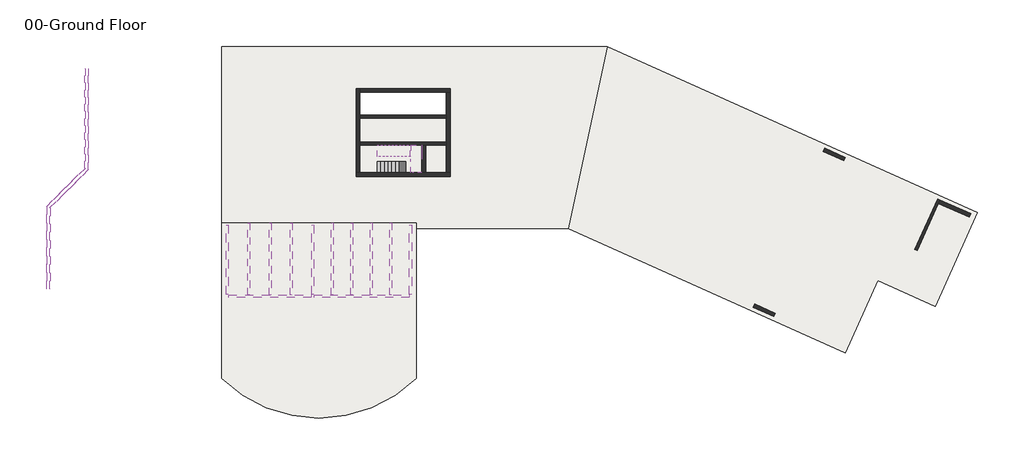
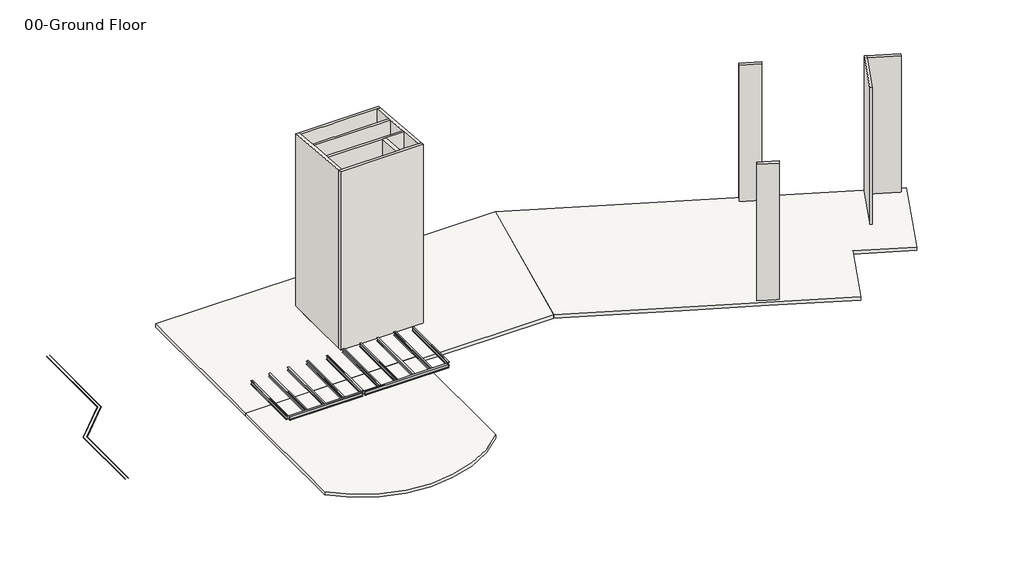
# One storey: 12 beams, 11 walls, 6 proxies, 4 slabs, 2 stair flights.
"""IFC4 building model written with IfcOpenShell, lengths in millimetres."""

from ifc_helpers import new_model, si_unit, frame, origin, origin_with_axes, place, context, project, spatial, polyline, circle_curve, outline, extrude, faceted_brep, transform, mapped, element, save
from ifc_brep_helpers import plane_surface, cylinder_surface, advanced_brep
from components import w_shapes_w12x26_2928aa94, w_shapes_w14x30_ae17c4a2, w_shapes_w14x30_3d09f0be, w_shapes_w14x30_640f1b9c, w_shapes_w14x30_d98494cf

model = new_model("IFC4")

# Units and contexts
model_context = context("Model", 3, world=origin())
ifc_project = project(units=[si_unit("LENGTHUNIT", "METRE", prefix="MILLI")], contexts=[model_context])

# Site, building, storey
site = spatial("IfcSite", under=ifc_project)
building = spatial("IfcBuilding", under=site)
storey = spatial("IfcBuildingStorey", under=building, Name="00-Ground Floor", Elevation=0.0)

# Beams
placement = place(None, origin())
w_shapes_w12x26_shape = w_shapes_w12x26_2928aa94(model_context)
element("IfcBeam", 1, ObjectType="W Shapes : W12X26", at=placement, inside=storey, context=model_context, shape_type="MappedRepresentation", body=[
    mapped(w_shapes_w12x26_shape, transform((1752.6, -16998.95, 2994.66), x_axis=(0.0, 1.0, 0.0), y_axis=(-1.0, 0.0, 0.0), z_axis=(0.0, 0.0, 1.0))),
])
element("IfcBeam", 2, ObjectType="W Shapes : W12X26", at=placement, inside=storey, context=model_context, shape_type="MappedRepresentation", body=[
    mapped(w_shapes_w12x26_shape, transform((3505.2, -16998.95, 2994.66), x_axis=(0.0, 1.0, 0.0), y_axis=(-1.0, 0.0, 0.0), z_axis=(0.0, 0.0, 1.0))),
])
element("IfcBeam", 3, ObjectType="W Shapes : W12X26", at=placement, inside=storey, context=model_context, shape_type="MappedRepresentation", body=[
    mapped(w_shapes_w12x26_shape, transform((5257.8, -16998.95, 2994.66), x_axis=(0.0, 1.0, 0.0), y_axis=(-1.0, 0.0, 0.0), z_axis=(0.0, 0.0, 1.0))),
])
element("IfcBeam", 4, ObjectType="W Shapes : W12X26", at=placement, inside=storey, context=model_context, shape_type="MappedRepresentation", body=[
    mapped(w_shapes_w12x26_shape, transform((8608.06, -16998.95, 2994.66), x_axis=(0.0, 1.0, 0.0), y_axis=(-1.0, 0.0, 0.0), z_axis=(0.0, 0.0, 1.0))),
])
element("IfcBeam", 5, ObjectType="W Shapes : W12X26", at=placement, inside=storey, context=model_context, shape_type="MappedRepresentation", body=[
    mapped(w_shapes_w12x26_shape, transform((10205.72, -16998.95, 2994.66), x_axis=(0.0, 1.0, 0.0), y_axis=(-1.0, 0.0, 0.0), z_axis=(0.0, 0.0, 1.0))),
])
element("IfcBeam", 6, ObjectType="W Shapes : W12X26", at=placement, inside=storey, context=model_context, shape_type="MappedRepresentation", body=[
    mapped(w_shapes_w12x26_shape, transform((11803.38, -16998.95, 2994.66), x_axis=(0.0, 1.0, 0.0), y_axis=(-1.0, 0.0, 0.0), z_axis=(0.0, 0.0, 1.0))),
])
element("IfcBeam", 7, ObjectType="W Shapes : W12X26", at=placement, inside=storey, context=model_context, shape_type="MappedRepresentation", body=[
    mapped(w_shapes_w12x26_shape, transform((13401.04, -16998.95, 2994.66), x_axis=(0.0, 1.0, 0.0), y_axis=(-1.0, 0.0, 0.0), z_axis=(0.0, 0.0, 1.0))),
])
w_shapes_w14x30_shape = w_shapes_w14x30_ae17c4a2(model_context)
element("IfcBeam", 8, ObjectType="W Shapes : W14X30", at=placement, inside=storey, context=model_context, shape_type="MappedRepresentation", body=[
    mapped(w_shapes_w14x30_shape, transform((3505.2, -20002.5, 2974.34), x_axis=(1.0, 0.0, 0.0), y_axis=(0.0, 1.0, 0.0), z_axis=(0.0, 0.0, 1.0))),
])
w_shapes_w14x30_2_shape = w_shapes_w14x30_3d09f0be(model_context)
element("IfcBeam", 9, ObjectType="W Shapes : W14X30", at=placement, inside=storey, context=model_context, shape_type="MappedRepresentation", body=[
    mapped(w_shapes_w14x30_2_shape, transform((11004.55, -20002.5, 2974.34), x_axis=(1.0, 0.0, 0.0), y_axis=(0.0, 1.0, 0.0), z_axis=(0.0, 0.0, 1.0))),
])
w_shapes_w14x30_3_shape = w_shapes_w14x30_640f1b9c(model_context)
element("IfcBeam", 10, ObjectType="W Shapes : W14X30", at=placement, inside=storey, context=model_context, shape_type="MappedRepresentation", body=[
    mapped(w_shapes_w14x30_3_shape, transform((0.0, -16998.95, 2974.34), x_axis=(0.0, 1.0, 0.0), y_axis=(-1.0, 0.0, 0.0), z_axis=(0.0, 0.0, 1.0))),
])
element("IfcBeam", 11, ObjectType="W Shapes : W14X30", at=placement, inside=storey, context=model_context, shape_type="MappedRepresentation", body=[
    mapped(w_shapes_w14x30_3_shape, transform((7010.4, -16998.95, 2974.34), x_axis=(0.0, 1.0, 0.0), y_axis=(-1.0, 0.0, 0.0), z_axis=(0.0, 0.0, 1.0))),
])
w_shapes_w14x30_4_shape = w_shapes_w14x30_d98494cf(model_context)
element("IfcBeam", 12, ObjectType="W Shapes : W14X30", at=placement, inside=storey, context=model_context, shape_type="MappedRepresentation", body=[
    mapped(w_shapes_w14x30_4_shape, transform((14998.7, -16998.95, 2974.34), x_axis=(0.0, -1.0, 0.0), y_axis=(1.0, 0.0, 0.0), z_axis=(0.0, 0.0, 1.0))),
])

# Proxies
element("IfcBuildingElementProxy", 13, Name="Reveals", at=placement, inside=storey, context=model_context, shape_type="Brep", body=[
    faceted_brep([(-14486.2784596, -12770.2555384, 1803.4), (-14511.6784596, -12759.734514, 1828.8), (-14486.2784596, -12770.2555384, 1828.8), (-14486.2784596, -19412.7293915, 1803.4), (-14486.2784596, -19412.7293915, 1828.8), (-14511.6784596, -19412.7293915, 1828.8)], [[[0, 1, 2]], [[3, 4, 5]], [[1, 0, 3, 5]], [[2, 1, 5, 4]], [[0, 2, 4, 3]]]),
])
element("IfcBuildingElementProxy", 14, Name="Reveals", at=placement, inside=storey, context=model_context, shape_type="Brep", body=[
    faceted_brep([(-14791.0784596, -12644.0032446, 1803.4), (-14791.0784596, -12644.0032446, 1828.8), (-14765.6784596, -12654.5242691, 1828.8), (-14791.0784596, -19412.7293915, 1803.4), (-14765.6784596, -19412.7293915, 1828.8), (-14791.0784596, -19412.7293915, 1828.8)], [[[0, 1, 2]], [[3, 4, 5]], [[1, 0, 3, 5]], [[2, 1, 5, 4]], [[0, 2, 4, 3]]]),
])
element("IfcBuildingElementProxy", 15, Name="Reveals", at=placement, inside=storey, context=model_context, shape_type="Brep", body=[
    faceted_brep([(-11361.1493295, -1352.4002614, 1803.4), (-11386.5493295, -1352.4002614, 1828.8), (-11361.1493295, -1352.4002614, 1828.8), (-11361.1493295, -9645.1264083, 1803.4), (-11361.1493295, -9645.1264083, 1828.8), (-11386.5493295, -9634.6053838, 1828.8)], [[[0, 1, 2]], [[3, 4, 5]], [[1, 0, 3, 5]], [[2, 1, 5, 4]], [[0, 2, 4, 3]]]),
])
element("IfcBuildingElementProxy", 16, Name="Reveals", at=placement, inside=storey, context=model_context, shape_type="Brep", body=[
    faceted_brep([(-11665.9493295, -1352.4002614, 1803.4), (-11665.9493295, -1352.4002614, 1828.8), (-11640.5493295, -1352.4002614, 1828.8), (-11665.9493295, -9518.8741145, 1803.4), (-11640.5493295, -9529.395139, 1828.8), (-11665.9493295, -9518.8741145, 1828.8)], [[[0, 1, 2]], [[3, 4, 5]], [[1, 0, 3, 5]], [[2, 1, 5, 4]], [[0, 2, 4, 3]]]),
])
element("IfcBuildingElementProxy", 17, Name="Reveals", at=placement, inside=storey, context=model_context, shape_type="Brep", body=[
    faceted_brep([(-11361.1493295, -9645.1264083, 1803.4), (-11386.5493295, -9634.6053838, 1828.8), (-11361.1493295, -9645.1264083, 1828.8), (-14486.2784596, -12770.2555384, 1803.4), (-14486.2784596, -12770.2555384, 1828.8), (-14511.6784596, -12759.734514, 1828.8)], [[[0, 1, 2]], [[3, 4, 5]], [[1, 0, 3, 5]], [[2, 1, 5, 4]], [[0, 2, 4, 3]]]),
])
element("IfcBuildingElementProxy", 18, Name="Reveals", at=placement, inside=storey, context=model_context, shape_type="Brep", body=[
    faceted_brep([(-11665.9493295, -9518.8741145, 1803.4), (-11665.9493295, -9518.8741145, 1828.8), (-11640.5493295, -9529.395139, 1828.8), (-14791.0784596, -12644.0032446, 1803.4), (-14765.6784596, -12654.5242691, 1828.8), (-14791.0784596, -12644.0032446, 1828.8)], [[[0, 1, 2]], [[3, 4, 5]], [[1, 0, 3, 5]], [[2, 1, 5, 4]], [[0, 2, 4, 3]]]),
])

# Slabs
element("IfcSlab", 19, ObjectType="7\" Thickness", at=placement, inside=storey, context=model_context, shape_type="Brep", body=[
    faceted_brep([(15011.4, -9893.3, 1764.6315789), (15011.4, -8978.9, 1764.6315789), (15030.45, -8978.9, 1588.1684211), (15030.45, -9893.3, 1588.1684211), (15925.8, -9893.3, 1764.6315789), (15925.8, -7632.7, 1764.6315789), (15045.9844276, -7632.7, 1764.6315789), (15011.4, -7632.7, 1764.6315789), (14992.35, -7632.7, 1764.6315789), (14992.35, -8547.1, 1764.6315789), (15011.4, -8547.1, 1764.6315789), (15281.6155724, -9893.3, 1764.6315789), (15011.4, -8978.9, 1586.8315789), (15030.45, -8978.9, 1586.8315789), (15030.45, -8978.9, 1441.4199317), (15030.45, -9893.3, 1441.4199317), (15281.6155724, -9893.3, 1586.8315789), (15925.8, -9893.3, 1586.8315789), (15925.8, -7632.7, 1586.8315789), (15045.9844276, -7632.7, 1586.8315789), (15011.4, -7632.7, 1606.8541423), (14992.35, -7632.7, 1617.8830896), (14992.35, -8547.1, 1617.8830896), (15011.4, -8547.1, 1606.8541423), (15011.4, -8547.1, 1586.8315789), (15045.9844276, -8547.1, 1586.8315789), (15281.6155724, -8978.9, 1586.8315789)], [[[0, 1, 2, 3]], [[4, 5, 6, 7, 8, 9, 10, 1, 0, 11]], [[2, 1, 12, 13]], [[3, 2, 13, 14, 15]], [[0, 3, 15, 16, 17, 4, 11]], [[5, 4, 17, 18]], [[5, 18, 19, 20, 7, 6]], [[8, 7, 20, 21]], [[9, 8, 21, 22]], [[10, 9, 22, 23]], [[1, 10, 23, 24, 12]], [[24, 25, 19, 18, 17, 16, 26, 13, 12]], [[25, 24, 23]], [[26, 16, 15, 14]], [[13, 26, 14]], [[19, 25, 23, 22, 21, 20]]]),
])
element("IfcSlab", 20, ObjectType="RC Slab 12\"", at=placement, inside=storey, context=model_context, shape_type="Brep", body=[
    faceted_brep([(-457.2, 457.2, -304.8), (6858.0, 457.2, -304.8), (14998.7, 457.2, -304.8), (22009.1, 457.2, -304.8), (31098.7387393, 457.2, -304.8), (30902.7958822, -457.2, -304.8), (27903.7815965, -14452.6, -304.8), (22009.1, -14452.6, -304.8), (15455.9, -14452.6, -304.8), (15455.9, -13995.4, -304.8), (457.2, -13995.4, -304.8), (-457.2, -13995.4, -304.8), (-457.2, -7505.7, -304.8), (18249.9, -2984.5, -304.8), (10553.7, -2984.5, -304.8), (10553.7, -5422.9, -304.8), (18249.9, -5422.9, -304.8), (31098.7387393, 457.2, 0.0), (-457.2, 457.2, 0.0), (-457.2, -13995.4, 0.0), (15455.9, -13995.4, 0.0), (15455.9, -14452.6, 0.0), (27903.7815965, -14452.6, 0.0), (10553.7, -2984.5, 0.0), (18249.9, -2984.5, 0.0), (18249.9, -5422.9, 0.0), (10553.7, -5422.9, 0.0)], [[[0, 1, 2, 3, 4, 5, 6, 7, 8, 9, 10, 11, 12], [13, 14, 15, 16]], [[17, 18, 19, 20, 21, 22], [23, 24, 25, 26]], [[4, 3, 2, 1, 0, 18, 17]], [[6, 5, 4, 17, 22]], [[6, 22, 21, 8, 7]], [[18, 0, 12, 11, 19]], [[14, 13, 24, 23]], [[15, 14, 23, 26]], [[16, 15, 26, 25]], [[13, 16, 25, 24]], [[20, 9, 8, 21]], [[9, 20, 19, 11, 10]]]),
])
element("IfcSlab", 21, ObjectType="RC Slab 12\"", at=placement, inside=storey, context=model_context, shape_type="AdvancedBrep", body=[
    advanced_brep(
    [(15455.9, -13995.4, -304.8), (15455.9, -14452.6, -304.8), (15455.9, -20002.5, -304.8), (15455.9, -26723.3402351, -304.8), (-457.2, -26723.3402351, -304.8), (-457.2, -20002.5, -304.8), (-457.2, -13995.4, -304.8), (457.2, -13995.4, -304.8), (15455.9, -13995.4, 0.0), (-457.2, -13995.4, 0.0), (-457.2, -26723.3402351, 0.0), (15455.9, -26723.3402351, 0.0), (15455.9, -14452.6, 0.0)],
    [
        (0, 1),
        (1, 2),
        (2, 3),
        (3, 4, circle_curve(frame((7499.35, -18686.6508475, -304.8), z_axis=(0.0, 0.0, -1.0), x_axis=(1.0, 0.0, 0.0)), 11309.0699979)),
        (4, 5),
        (5, 6),
        (6, 7),
        (7, 0),
        (8, 9),
        (9, 10),
        (10, 11, circle_curve(frame((7499.35, -18686.6508475, 0.0), z_axis=(0.0, 0.0, 1.0), x_axis=(1.0, 0.0, 0.0)), 11309.0699979)),
        (11, 12),
        (12, 8),
        (0, 8),
        (11, 3),
        (10, 4),
        (9, 6),
    ],
    [
        plane_surface(frame((15455.9, -13995.4, -304.8), z_axis=(0.0, 0.0, -1.0), x_axis=(0.0, -1.0, 0.0))),
        plane_surface(frame((15455.9, -13995.4, 0.0), z_axis=(0.0, 0.0, 1.0), x_axis=(0.0, 1.0, 0.0))),
        plane_surface(frame((15455.9, -13995.4, -304.8), z_axis=(1.0, 0.0, 0.0), x_axis=(0.0, 0.0, 1.0))),
        cylinder_surface(frame((7499.35, -18686.6508475, 0.0), z_axis=(0.0, 0.0, -1.0), x_axis=(1.0, 0.0, 0.0)), 11309.0699979),
        plane_surface(frame((-457.2, -26723.3402351, -304.8), z_axis=(-1.0, 0.0, 0.0), x_axis=(0.0, 0.0, 1.0))),
        plane_surface(frame((-457.2, -13995.4, -304.8), z_axis=(0.0, 1.0, 0.0), x_axis=(0.0, 0.0, 1.0))),
    ],
    [
        (0, [[1, 2, 3, 4, 5, 6, 7, 8]]),
        (1, [[9, 10, 11, 12, 13]]),
        (2, [[-3, -2, -1, 14, -13, -12, 15]]),
        (3, [[-4, -15, -11, 16]]),
        (4, [[-6, -5, -16, -10, 17]]),
        (5, [[-8, -7, -17, -9, -14]]),
    ],
),
])
element("IfcSlab", 22, ObjectType="RC Slab 12\"", at=placement, inside=storey, context=model_context, shape_type="Brep", body=[
    faceted_brep([(61413.0546278, -13159.9258537, -304.8), (57962.8673107, -20840.7, -304.8), (53236.2370668, -18717.5078049, -304.8), (50577.0429205, -24637.3804878, -304.8), (43765.1346278, -21577.4858537, -304.8), (37370.2819449, -18704.9317073, -304.8), (30975.429262, -15832.377561, -304.8), (27903.7815965, -14452.6, -304.8), (30902.7958822, -457.2, -304.8), (31098.7387393, 457.2, -304.8), (37084.8107254, -2231.7307317, -304.8), (43479.6634083, -5104.284878, -304.8), (49874.5160912, -7976.8390244, -304.8), (56269.3687742, -10849.3931707, -304.8), (61413.0546278, -13159.9258537, 0.0), (31098.7387393, 457.2, 0.0), (27903.7815965, -14452.6, 0.0), (50577.0429205, -24637.3804878, 0.0), (53236.2370668, -18717.5078049, 0.0), (57962.8673107, -20840.7, 0.0)], [[[0, 1, 2, 3, 4, 5, 6, 7, 8, 9, 10, 11, 12, 13]], [[14, 15, 16, 17, 18, 19]], [[1, 0, 14, 19]], [[2, 1, 19, 18]], [[3, 2, 18, 17]], [[7, 6, 5, 4, 3, 17, 16]], [[9, 8, 7, 16, 15]], [[0, 13, 12, 11, 10, 9, 15, 14]]]),
])

# Stair flights
element("IfcStairFlight", 23, ObjectType="3/4\" Nosing", at=placement, inside=storey, context=model_context, shape_type="Brep", body=[
    faceted_brep([(12268.2, -9893.3, 176.4631579), (12268.2, -8978.9, 176.4631579), (12287.25, -8978.9, 0.0), (12287.25, -9893.3, 0.0), (12592.05, -9893.3, 176.4631579), (12592.05, -8978.9, 176.4631579), (12592.05, -8978.9, 29.7146686), (12540.7246633, -8978.9, 0.0), (12540.7246633, -9893.3, 0.0), (12592.05, -9893.3, 29.7146686), (12573.0, -8978.9, 352.9263158), (12573.0, -9893.3, 352.9263158), (12896.85, -9893.3, 352.9263158), (12896.85, -8978.9, 352.9263158), (12896.85, -8978.9, 206.1778265), (12896.85, -9893.3, 206.1778265), (12877.8, -8978.9, 529.3894737), (12877.8, -9893.3, 529.3894737), (13201.65, -9893.3, 529.3894737), (13201.65, -8978.9, 529.3894737), (13201.65, -8978.9, 382.6409844), (13201.65, -9893.3, 382.6409844), (13182.6, -8978.9, 705.8526316), (13182.6, -9893.3, 705.8526316), (13506.45, -9893.3, 705.8526316), (13506.45, -8978.9, 705.8526316), (13506.45, -8978.9, 559.1041423), (13506.45, -9893.3, 559.1041423), (13487.4, -8978.9, 882.3157895), (13487.4, -9893.3, 882.3157895), (13811.25, -9893.3, 882.3157895), (13811.25, -8978.9, 882.3157895), (13811.25, -8978.9, 735.5673002), (13811.25, -9893.3, 735.5673002), (13792.2, -8978.9, 1058.7789474), (13792.2, -9893.3, 1058.7789474), (14116.05, -9893.3, 1058.7789474), (14116.05, -8978.9, 1058.7789474), (14116.05, -8978.9, 912.0304581), (14116.05, -9893.3, 912.0304581), (14097.0, -8978.9, 1235.2421053), (14097.0, -9893.3, 1235.2421053), (14420.85, -9893.3, 1235.2421053), (14420.85, -8978.9, 1235.2421053), (14420.85, -8978.9, 1088.493616), (14420.85, -9893.3, 1088.493616), (14725.65, -8978.9, 1264.9567739), (15030.45, -8978.9, 1441.4199317), (15030.45, -9893.3, 1441.4199317), (15011.4, -9893.3, 1430.3909844), (14725.65, -9893.3, 1264.9567739), (14401.8, -8978.9, 1411.7052632), (14401.8, -9893.3, 1411.7052632), (14725.65, -9893.3, 1411.7052632), (14725.65, -8978.9, 1411.7052632), (14706.6, -8978.9, 1588.1684211), (14706.6, -9893.3, 1588.1684211), (15011.4, -9893.3, 1588.1684211), (15030.45, -9893.3, 1588.1684211), (15030.45, -8978.9, 1588.1684211), (15011.4, -8978.9, 1588.1684211), (15030.45, -8978.9, 1586.8315789)], [[[0, 1, 2, 3]], [[1, 0, 4, 5]], [[1, 5, 6, 7, 2]], [[4, 0, 3, 8, 9]], [[10, 11, 12, 13]], [[10, 13, 14, 6, 5]], [[12, 11, 4, 9, 15]], [[5, 4, 11, 10]], [[16, 17, 18, 19]], [[16, 19, 20, 14, 13]], [[18, 17, 12, 15, 21]], [[13, 12, 17, 16]], [[22, 23, 24, 25]], [[22, 25, 26, 20, 19]], [[24, 23, 18, 21, 27]], [[19, 18, 23, 22]], [[28, 29, 30, 31]], [[28, 31, 32, 26, 25]], [[30, 29, 24, 27, 33]], [[25, 24, 29, 28]], [[34, 35, 36, 37]], [[34, 37, 38, 32, 31]], [[36, 35, 30, 33, 39]], [[31, 30, 35, 34]], [[40, 41, 42, 43]], [[40, 43, 44, 38, 37]], [[42, 41, 36, 39, 45]], [[37, 36, 41, 40]], [[3, 2, 7, 8]], [[8, 7, 6, 14, 20, 26, 32, 38, 44, 46, 47, 48, 49, 50, 45, 39, 33, 27, 21, 15, 9]], [[51, 52, 53, 54]], [[51, 54, 46, 44, 43]], [[53, 52, 42, 45, 50]], [[43, 42, 52, 51]], [[55, 56, 57, 58, 59, 60]], [[54, 55, 60, 59, 61, 47, 46]], [[57, 56, 53, 50, 49]], [[58, 57, 49, 48]], [[59, 58, 48, 47, 61]], [[54, 53, 56, 55]]]),
])
element("IfcStairFlight", 24, ObjectType="3/4\" Nosing", at=placement, inside=storey, context=model_context, shape_type="Brep", body=[
    faceted_brep([(15011.4, -7632.7, 1941.0947368), (15011.4, -8547.1, 1941.0947368), (14992.35, -8547.1, 1764.6315789), (14992.35, -7632.7, 1764.6315789), (14687.55, -7632.7, 1941.0947368), (14687.55, -8547.1, 1941.0947368), (14687.55, -8547.1, 1794.3462475), (14992.35, -8547.1, 1617.8830896), (14992.35, -7632.7, 1617.8830896), (14687.55, -7632.7, 1794.3462475), (14706.6, -8547.1, 2117.5578947), (14706.6, -7632.7, 2117.5578947), (14382.75, -7632.7, 2117.5578947), (14382.75, -8547.1, 2117.5578947), (14382.75, -8547.1, 1970.8094054), (14382.75, -7632.7, 1970.8094054), (14401.8, -8547.1, 2294.0210526), (14401.8, -7632.7, 2294.0210526), (14077.95, -7632.7, 2294.0210526), (14077.95, -8547.1, 2294.0210526), (14077.95, -8547.1, 2147.2725633), (14077.95, -7632.7, 2147.2725633), (14097.0, -8547.1, 2470.4842105), (14097.0, -7632.7, 2470.4842105), (13773.15, -7632.7, 2470.4842105), (13773.15, -8547.1, 2470.4842105), (13773.15, -8547.1, 2323.7357212), (13773.15, -7632.7, 2323.7357212), (13792.2, -8547.1, 2646.9473684), (13792.2, -7632.7, 2646.9473684), (13468.35, -7632.7, 2646.9473684), (13468.35, -8547.1, 2646.9473684), (13468.35, -8547.1, 2500.1988791), (13468.35, -7632.7, 2500.1988791), (13487.4, -8547.1, 2823.4105263), (13487.4, -7632.7, 2823.4105263), (13163.55, -7632.7, 2823.4105263), (13163.55, -8547.1, 2823.4105263), (13163.55, -8547.1, 2676.662037), (13163.55, -7632.7, 2676.662037), (13182.6, -8547.1, 2999.8736842), (13182.6, -7632.7, 2999.8736842), (12858.75, -7632.7, 2999.8736842), (12858.75, -8547.1, 2999.8736842), (12858.75, -8547.1, 2853.1251949), (12858.75, -7632.7, 2853.1251949), (12877.8, -8547.1, 3176.3368421), (12877.8, -7632.7, 3176.3368421), (12553.95, -7632.7, 3176.3368421), (12553.95, -8547.1, 3176.3368421), (12553.95, -8547.1, 3029.5883528), (12553.95, -7632.7, 3029.5883528), (12573.0, -8547.1, 3352.8), (12573.0, -7632.7, 3352.8), (12268.2, -7632.7, 3352.8), (12268.2, -8547.1, 3352.8), (12268.2, -8547.1, 3195.0225633), (12268.2, -7632.7, 3195.0225633)], [[[0, 1, 2, 3]], [[1, 0, 4, 5]], [[1, 5, 6, 7, 2]], [[3, 2, 7, 8]], [[4, 0, 3, 8, 9]], [[10, 11, 12, 13]], [[10, 13, 14, 6, 5]], [[12, 11, 4, 9, 15]], [[11, 10, 5, 4]], [[16, 17, 18, 19]], [[16, 19, 20, 14, 13]], [[18, 17, 12, 15, 21]], [[17, 16, 13, 12]], [[22, 23, 24, 25]], [[22, 25, 26, 20, 19]], [[24, 23, 18, 21, 27]], [[23, 22, 19, 18]], [[28, 29, 30, 31]], [[28, 31, 32, 26, 25]], [[30, 29, 24, 27, 33]], [[29, 28, 25, 24]], [[34, 35, 36, 37]], [[34, 37, 38, 32, 31]], [[36, 35, 30, 33, 39]], [[35, 34, 31, 30]], [[40, 41, 42, 43]], [[40, 43, 44, 38, 37]], [[42, 41, 36, 39, 45]], [[41, 40, 37, 36]], [[46, 47, 48, 49]], [[46, 49, 50, 44, 43]], [[48, 47, 42, 45, 51]], [[47, 46, 43, 42]], [[52, 53, 54, 55]], [[52, 55, 56, 50, 49]], [[54, 53, 48, 51, 57]], [[55, 54, 57, 56]], [[53, 52, 49, 48]], [[7, 6, 14, 20, 26, 32, 38, 44, 50, 56, 57, 51, 45, 39, 33, 27, 21, 15, 9, 8]]]),
])

# Walls
element("IfcWall", 25, ObjectType="Blockwork 10\"", at=placement, inside=storey, context=model_context, shape_type="SweptSolid", body=[
    extrude(outline(polyline([(-9893.3, 0.0), (-9893.3, 17533.5928076), (-7632.7, 17335.8159349), (-7632.7, 0.0), (-9893.3, 0.0)])), frame((15925.8, 0.0, 0.0), z_axis=(1.0, 0.0, 0.0), x_axis=(0.0, 1.0, 0.0)), (0.0, 0.0, 1.0), 304.8),
])
element("IfcWall", 26, ObjectType="RC Wall 10\"", at=placement, inside=storey, context=model_context, shape_type="Brep", body=[
    faceted_brep([(10858.5, -5422.9, 0.0), (17945.1, -5422.9, 0.0), (17945.1, -5422.9, 17142.4834862), (10858.5, -5422.9, 17142.4834862), (10858.5, -5168.9, 0.0), (10858.5, -5168.9, 17120.2613657), (12738.1, -5168.9, 17120.2613657), (12992.1, -5168.9, 17120.2613657), (14871.7, -5168.9, 17120.2613657), (15125.7, -5168.9, 17120.2613657), (17945.1, -5168.9, 17120.2613657), (17945.1, -5168.9, 0.0)], [[[0, 1, 2, 3]], [[4, 5, 6, 7, 8, 9, 10, 11]], [[1, 0, 4, 11]], [[0, 3, 5, 4]], [[2, 1, 11, 10]], [[3, 2, 10, 9, 8, 7, 6, 5]]]),
])
element("IfcWall", 27, ObjectType="RC Wall 10\"", at=placement, inside=storey, context=model_context, shape_type="Brep", body=[
    faceted_brep([(10858.5, -7632.7, 0.0), (15925.8, -7632.7, 0.0), (16230.6, -7632.7, 0.0), (17945.1, -7632.7, 0.0), (17945.1, -7632.7, 17335.8159349), (16230.6, -7632.7, 17335.8159349), (15925.8, -7632.7, 17335.8159349), (10858.5, -7632.7, 17335.8159349), (10858.5, -7378.7, 0.0), (10858.5, -7378.7, 17313.5938143), (17945.1, -7378.7, 17313.5938143), (17945.1, -7378.7, 0.0)], [[[0, 1, 2, 3, 4, 5, 6, 7]], [[8, 9, 10, 11]], [[3, 2, 1, 0, 8, 11]], [[0, 7, 9, 8]], [[4, 3, 11, 10]], [[7, 6, 5, 4, 10, 9]]]),
])
element("IfcWall", 28, ObjectType="RC Wall 12\"", at=placement, inside=storey, context=model_context, shape_type="Brep", body=[
    faceted_brep([(18249.9, -9893.3, 0.0), (17945.1, -9893.3, 0.0), (16230.6, -9893.3, 0.0), (15925.8, -9893.3, 0.0), (10858.5, -9893.3, 0.0), (10553.7, -9893.3, 0.0), (10553.7, -9893.3, 17533.5928076), (10858.5, -9893.3, 17533.5928076), (15925.8, -9893.3, 17533.5928076), (16230.6, -9893.3, 17533.5928076), (17945.1, -9893.3, 17533.5928076), (18249.9, -9893.3, 17533.5928076), (18249.9, -10198.1, 0.0), (18249.9, -10198.1, 17560.2593523), (10553.7, -10198.1, 17560.2593523), (10553.7, -10198.1, 0.0)], [[[0, 1, 2, 3, 4, 5, 6, 7, 8, 9, 10, 11]], [[12, 13, 14, 15]], [[5, 4, 3, 2, 1, 0, 12, 15]], [[6, 5, 15, 14]], [[0, 11, 13, 12]], [[11, 10, 9, 8, 7, 6, 14, 13]]]),
])
element("IfcWall", 29, ObjectType="RC Wall 12\"", at=placement, inside=storey, context=model_context, shape_type="Brep", body=[
    faceted_brep([(10858.5, -9893.3, 0.0), (10858.5, -7632.7, 0.0), (10858.5, -7378.7, 0.0), (10858.5, -5422.9, 0.0), (10858.5, -5168.9, 0.0), (10858.5, -3289.3, 0.0), (10858.5, -2984.5, 0.0), (10858.5, -2984.5, 16929.1511291), (10858.5, -3289.3, 16955.8176737), (10858.5, -5168.9, 17120.2613657), (10858.5, -5422.9, 17142.4834862), (10858.5, -7378.7, 17313.5938143), (10858.5, -7632.7, 17335.8159349), (10858.5, -9893.3, 17533.5928076), (10553.7, -9893.3, 0.0), (10553.7, -9893.3, 17533.5928076), (10553.7, -2984.5, 16929.1511291), (10553.7, -2984.5, 0.0)], [[[0, 1, 2, 3, 4, 5, 6, 7, 8, 9, 10, 11, 12, 13]], [[14, 15, 16, 17]], [[6, 5, 4, 3, 2, 1, 0, 14, 17]], [[0, 13, 15, 14]], [[7, 6, 17, 16]], [[13, 12, 11, 10, 9, 8, 7, 16, 15]]]),
])
element("IfcWall", 30, ObjectType="RC Wall 12\"", at=placement, inside=storey, context=model_context, shape_type="Brep", body=[
    faceted_brep([(10858.5, -3289.3, 0.0), (17945.1, -3289.3, 0.0), (18249.9, -3289.3, 0.0), (18249.9, -3289.3, 16955.8176737), (17945.1, -3289.3, 16955.8176737), (15125.7, -3289.3, 16955.8176737), (14871.7, -3289.3, 16955.8176737), (12992.1, -3289.3, 16955.8176737), (12738.1, -3289.3, 16955.8176737), (10858.5, -3289.3, 16955.8176737), (10858.5, -2984.5, 0.0), (10858.5, -2984.5, 16929.1511291), (18249.9, -2984.5, 16929.1511291), (18249.9, -2984.5, 0.0)], [[[0, 1, 2, 3, 4, 5, 6, 7, 8, 9]], [[10, 11, 12, 13]], [[2, 1, 0, 10, 13]], [[0, 9, 11, 10]], [[3, 2, 13, 12]], [[9, 8, 7, 6, 5, 4, 3, 12, 11]]]),
])
element("IfcWall", 31, ObjectType="RC Wall 12\"", at=placement, inside=storey, context=model_context, shape_type="Brep", body=[
    faceted_brep([(17945.1, -3289.3, 0.0), (17945.1, -5168.9, 0.0), (17945.1, -5422.9, 0.0), (17945.1, -7378.7, 0.0), (17945.1, -7632.7, 0.0), (17945.1, -9893.3, 0.0), (17945.1, -9893.3, 17533.5928076), (17945.1, -7632.7, 17335.8159349), (17945.1, -7378.7, 17313.5938143), (17945.1, -5422.9, 17142.4834862), (17945.1, -5168.9, 17120.2613657), (17945.1, -3289.3, 16955.8176737), (18249.9, -3289.3, 0.0), (18249.9, -3289.3, 16955.8176737), (18249.9, -9893.3, 17533.5928076), (18249.9, -9893.3, 0.0)], [[[0, 1, 2, 3, 4, 5, 6, 7, 8, 9, 10, 11]], [[12, 13, 14, 15]], [[5, 4, 3, 2, 1, 0, 12, 15]], [[6, 5, 15, 14]], [[0, 11, 13, 12]], [[11, 10, 9, 8, 7, 6, 14, 13]]]),
])
element("IfcWall", 32, ObjectType="RC Wall 12\"", at=placement, inside=storey, context=model_context, shape_type="SweptSolid", body=[
    extrude(outline(polyline([(58345.6019449, -12116.1717073), (60871.1053595, -13250.622439), (60746.211701, -13528.6595122), (58220.7082864, -12394.2087805), (58345.6019449, -12116.1717073)])), origin_with_axes(), (0.0, 0.0, 1.0), 13411.2),
])
element("IfcWall", 33, ObjectType="RC Wall 12\"", at=placement, inside=storey, context=model_context, shape_type="SweptSolid", body=[
    extrude(outline(polyline([(50458.8399937, -8907.5941463), (48790.6175546, -8158.2321951), (48915.5112132, -7880.195122), (50583.7336522, -8629.5570732), (50458.8399937, -8907.5941463)])), origin_with_axes(), (0.0, 0.0, 1.0), 13411.2),
])
element("IfcWall", 34, ObjectType="RC Wall 12\"", at=placement, inside=storey, context=model_context, shape_type="SweptSolid", body=[
    extrude(outline(polyline([(44724.1395059, -21674.1297561), (43055.9170668, -20924.7678049), (43180.8107254, -20646.7307317), (44849.0331644, -21396.0926829), (44724.1395059, -21674.1297561)])), origin_with_axes(), (0.0, 0.0, 1.0), 13411.2),
])
element("IfcWall", 35, ObjectType="RC Wall 8\"", at=placement, inside=storey, context=model_context, shape_type="Brep", body=[
    faceted_brep([(58160.2438961, -12032.9092683, 0.0), (56297.2468229, -16180.2956098, 0.0), (56297.2468229, -16180.2956098, 13411.2), (58160.2438961, -12032.9092683, 13411.2), (58345.6019449, -12116.1717073, 0.0), (58345.6019449, -12116.1717073, 13411.2), (58220.7082864, -12394.2087805, 13411.2), (56482.6048717, -16263.5580488, 13411.2), (56482.6048717, -16263.5580488, 0.0), (58220.7082864, -12394.2087805, 0.0)], [[[0, 1, 2, 3]], [[4, 5, 6, 7, 8, 9]], [[1, 0, 4, 9, 8]], [[2, 1, 8, 7]], [[3, 2, 7, 6, 5]], [[0, 3, 5, 4]]]),
])

save(model, "model.ifc")
